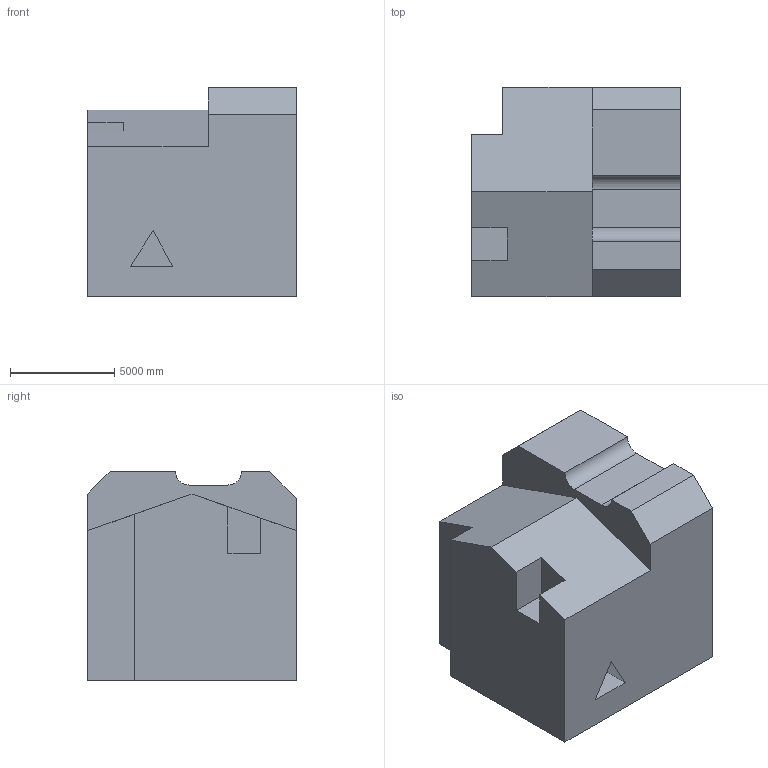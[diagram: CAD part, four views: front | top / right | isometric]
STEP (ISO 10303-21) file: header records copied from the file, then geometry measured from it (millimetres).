
FILE_DESCRIPTION (( 'STEP AP203' ), '1' );
FILE_NAME ('347.STEP', '2022-09-07T13:03:55', ( 'user' ), ( '' ), 'SwSTEP 2.0', 'SolidWorks 2021', '' );
FILE_SCHEMA (( 'CONFIG_CONTROL_DESIGN' ));
Length unit declared in the file: centimetre
Products named in the file (1): 347
Bounding box: 10000 x 10000 x 10000 mm (x, y, z)
Volume: 808602025171.4 mm3; surface area: 606766960.2 mm2
Topology: 1 solids, 1 shells, 27 faces, 72 edges, 48 vertices
Faces by surface type: plane 24, cylinder 3
Entity records: 909 total; most frequent: CARTESIAN_POINT 148, ORIENTED_EDGE 144, DIRECTION 134, EDGE_CURVE 72, LINE 66, VECTOR 66, VERTEX_POINT 48, AXIS2_PLACEMENT_3D 34
